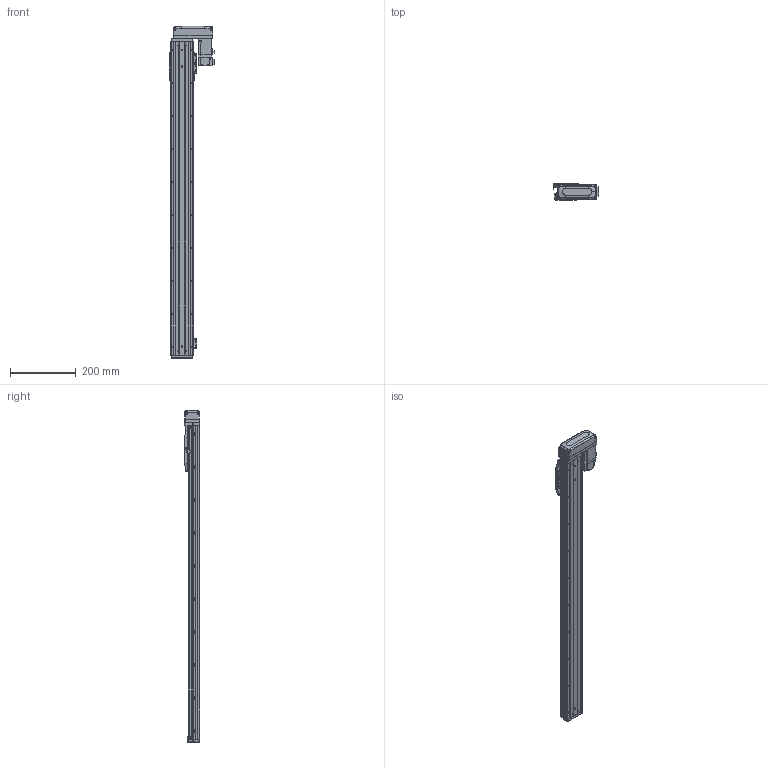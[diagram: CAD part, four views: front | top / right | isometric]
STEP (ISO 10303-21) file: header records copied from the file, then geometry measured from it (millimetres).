
FILE_DESCRIPTION (( 'STEP AP203' ), '1' );
FILE_NAME ('CTHA60-800-BL-M10-C4L.step', '2022-03-19T06:15:28', ( '微软用户' ), ( '微软中国' ), 'SwSTEP 2.0', 'SolidWorks 2020', '' );
FILE_SCHEMA (( 'CONFIG_CONTROL_DESIGN' ));
Length unit declared in the file: millimetre
Products named in the file (18): HG-KR13（三菱）; CTHA60-021; CTHA60-002; CTHA60-001_950; GBT 70.1-M4×16; CTHA60-031; CTHA60-004; GBT77-2000 M3×3; CTHA60-006-1; CTHA60-005; GBT 70.1-M3℅6; CTHA60-033; GB¨uT 70.2-M3¡Á6_M3¡Á6; GBT 70.3-M3℅6; CTHA60-800-BL-M10-C4L; EE_SX911P_R; CTHA60-016; CTHA60-017
Assembly tree (54 placements, depth 2):
  CTHA60-800-BL-M10-C4L
    CTHA60-001_950
    CTHA60-004
    CTHA60-005
    GB¨uT 70.2-M3¡Á6_M3¡Á6  x10
    EE_SX911P_R  x3
    CTHA60-017  x3
    CTHA60-021  x2
    GBT 70.1-M4×16  x10
    GBT77-2000 M3×3  x6
    GBT 70.1-M3℅6  x6
    GBT 70.3-M3℅6  x4
    CTHA60-016  x2
    HG-KR13（三菱）
    CTHA60-002
    CTHA60-031
    CTHA60-006-1
    CTHA60-033
Bounding box: 137.1 x 48 x 1007 mm (x, y, z)
Volume: 1683073.4 mm3; surface area: 496404.1 mm2
Topology: 56 solids, 56 shells, 2574 faces, 6205 edges, 3829 vertices
Faces by surface type: plane 1485, cylinder 595, cone 346, torus 92, bspline 32, sphere 24
Entity records: 46949 total; most frequent: CARTESIAN_POINT 9034, DIRECTION 7276, ORIENTED_EDGE 7218, EDGE_CURVE 3609, LINE 2568, VECTOR 2568, AXIS2_PLACEMENT_3D 2354, VERTEX_POINT 2288
